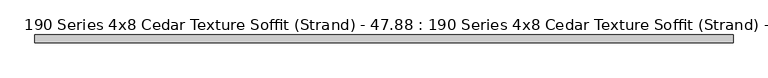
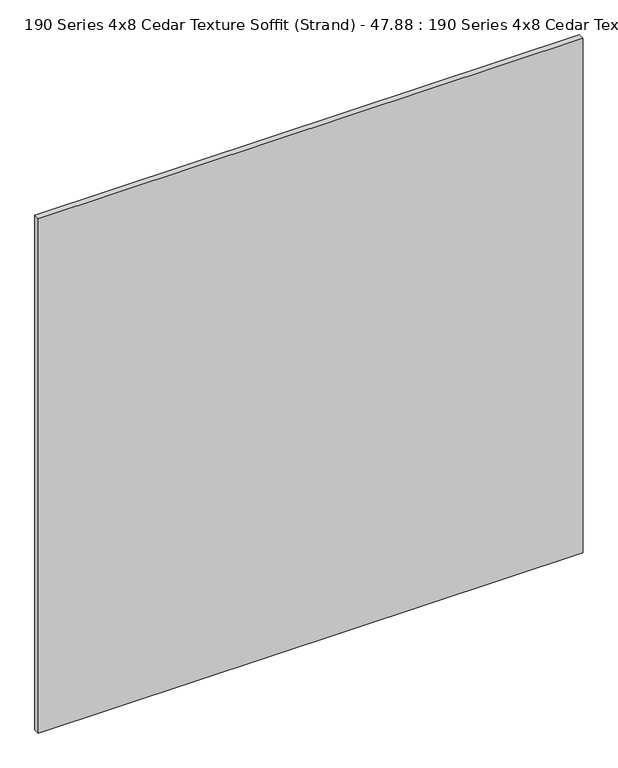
"""IFC4 building model written with IfcOpenShell, lengths in millimetres: proxy geometry, 190 Series 4x8 Cedar Texture Soffit (Strand) - 47.88 : 190 Series 4x8 Cedar Texture Soffit (Strand) - 47.88."""

from ifc_helpers import new_model, si_unit, frame, origin, place, context, project, spatial, polyline, outline, extrude, source, transform, mapped, element, save


def proxy_190_series_4x8_cedar_texture_soffit_strand_47_88_190_38c40540(model_context):
    return source(origin(), model_context, "Body", "SweptSolid", [
        extrude(outline(polyline([(1219.2, -13.462), (0.0, -13.462), (0.0, 0.0), (1219.2, 0.0), (1219.2, -13.462)])), frame((0.0, 0.0, -1216.152), z_axis=(0.0, 0.0, 1.0), x_axis=(1.0, 0.0, 0.0)), (0.0, 0.0, 1.0), 1216.152),
    ])


if __name__ == "__main__":
    model = new_model("IFC4")
    model_context = context("Model", 3, world=origin())
    ifc_project = project(units=[si_unit("LENGTHUNIT", "METRE", prefix="MILLI")], contexts=[model_context])
    site = spatial("IfcSite", under=ifc_project)
    building = spatial("IfcBuilding", under=site)
    placement = place(None, origin())
    proxy_190_series_4x8_cedar_texture_soffit_strand_47_88_190_shape = proxy_190_series_4x8_cedar_texture_soffit_strand_47_88_190_38c40540(model_context)
    element("IfcBuildingElementProxy", 1, Name="190 Series 4x8 Cedar Texture Soffit (Strand) - 47.88 : 190 Series 4x8 Cedar Texture Soffit (Strand) - 47.88", ObjectType="190 Series 4x8 Cedar Texture Soffit (Strand) - 47.88 : 190 Series 4x8 Cedar Texture Soffit (Strand) - 47.88", at=placement, inside=building, context=model_context, shape_type="MappedRepresentation", body=[
        mapped(proxy_190_series_4x8_cedar_texture_soffit_strand_47_88_190_shape, transform((0.0, 0.0, 0.0), x_axis=(1.0, 0.0, 0.0), y_axis=(0.0, 1.0, 0.0), z_axis=(0.0, 0.0, 1.0))),
    ])
    save(model, "model.ifc")
